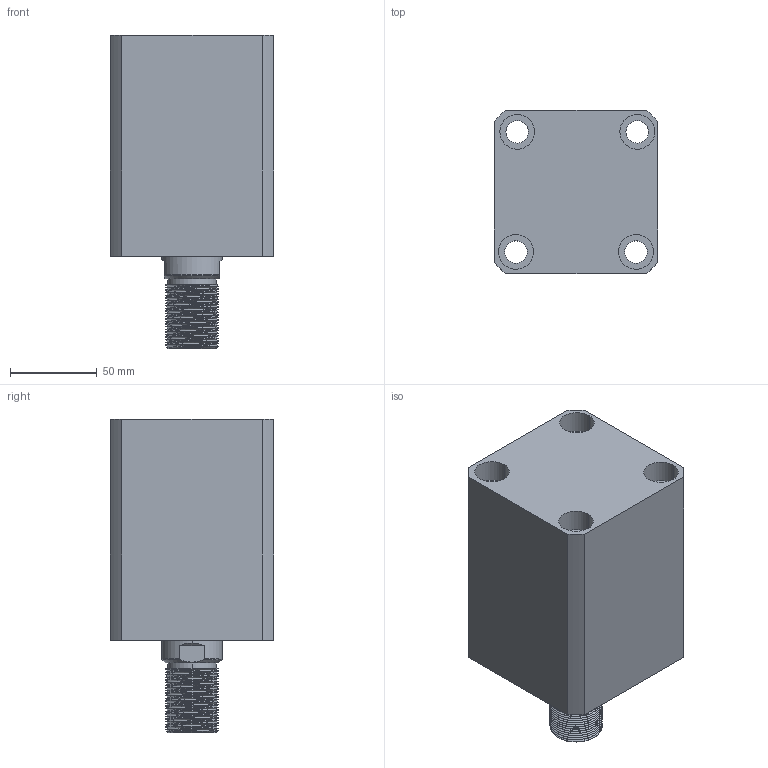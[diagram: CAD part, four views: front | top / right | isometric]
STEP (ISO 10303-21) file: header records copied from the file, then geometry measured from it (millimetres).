
FILE_DESCRIPTION (( 'STEP AP214' ), '1' );
FILE_NAME ('chtb-sdma63x60w_asm.STEP', '2018-05-18T09:23:00', ( 'Windows' ), ( 'Microsoft' ), 'SwSTEP 2.0', 'SolidWorks 2015', '' );
FILE_SCHEMA (( 'AUTOMOTIVE_DESIGN' ));
Length unit declared in the file: millimetre
Products named in the file (4): CHTB-SDMA63X60NBT; CHTB63X60WHSG; CHTB-63QG; chtb-sdma63x60w_asm
Assembly tree (3 placements, depth 2):
  chtb-sdma63x60w_asm
    CHTB-63QG
    CHTB63X60WHSG
    CHTB-SDMA63X60NBT
Bounding box: 94 x 94 x 180 mm (x, y, z)
Volume: 932478.4 mm3; surface area: 159060.8 mm2
Topology: 3 solids, 3 shells, 219 faces, 632 edges, 430 vertices
Faces by surface type: cylinder 156, plane 34, bspline 14, cone 9, torus 6
Entity records: 22297 total; most frequent: CARTESIAN_POINT 17024, ORIENTED_EDGE 1256, DIRECTION 878, EDGE_CURVE 628, VERTEX_POINT 430, AXIS2_PLACEMENT_3D 343, EDGE_LOOP 252, ADVANCED_FACE 219
